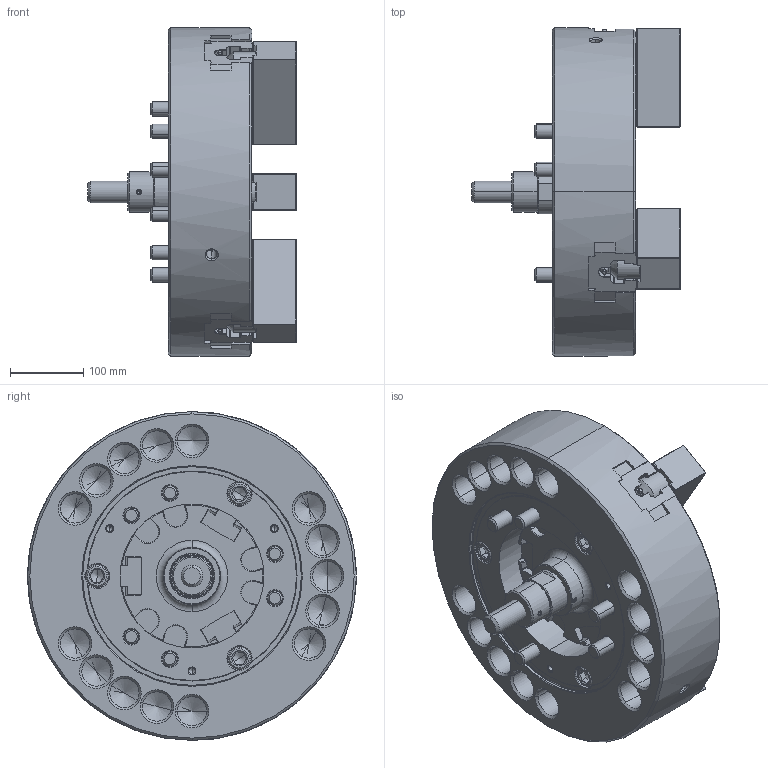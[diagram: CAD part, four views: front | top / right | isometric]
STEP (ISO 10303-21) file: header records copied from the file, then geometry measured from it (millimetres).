
FILE_DESCRIPTION (( 'STEP AP214' ), '1' );
FILE_NAME ('DT1_NL18_OUTSIDE_VIEW_HUL.STEP', '2026-03-22T23:25:36', ( '' ), ( '' ), 'SwSTEP 2.0', 'SolidWorks 2022', '' );
FILE_SCHEMA (( 'AUTOMOTIVE_DESIGN' ));
Length unit declared in the file: millimetre
Products named in the file (11): DT1_NL18_OUTSIDE_VIEW_HUL; DT1_NL18_M20x115^DT1_NL18; DT1_NL18_M20x55^DT1_NL18; Copy of 61P321208^DT1_NL18; DT1_NL18_SOFTJAW^DT1_NL18; DT1_NL18_DRAWSCREW^DT1_NL18; DT1_NL18_BASE^DT1_NL18; DT1_NL18_DN^DT1_NL18; DT1_NL18_COVER^DT1_NL18; DT1_NL18_TNUT^DT1_NL18; DT1_NL18_M6x12^DT1_NL18
Assembly tree (29 placements, depth 2):
  DT1_NL18_OUTSIDE_VIEW_HUL
    DT1_NL18_SOFTJAW^DT1_NL18  x3
    DT1_NL18_TNUT^DT1_NL18  x6
    DT1_NL18_COVER^DT1_NL18
    DT1_NL18_DRAWSCREW^DT1_NL18
    Copy of 61P321208^DT1_NL18
    DT1_NL18_M6x12^DT1_NL18  x3
    DT1_NL18_M20x115^DT1_NL18  x6
    DT1_NL18_M20x55^DT1_NL18  x6
    DT1_NL18_DN^DT1_NL18
    DT1_NL18_BASE^DT1_NL18
Bounding box: 285.62 x 450 x 450 mm (x, y, z)
Volume: 16427071.9 mm3; surface area: 1251388.1 mm2
Topology: 29 solids, 35 shells, 7171 faces, 20332 edges, 13325 vertices
Faces by surface type: plane 5064, cylinder 912, bspline 611, cone 517, torus 67
Entity records: 206139 total; most frequent: CARTESIAN_POINT 66322, ORIENTED_EDGE 31888, DIRECTION 24390, EDGE_CURVE 15944, VECTOR 12000, LINE 12000, VERTEX_POINT 10491, AXIS2_PLACEMENT_3D 6195
